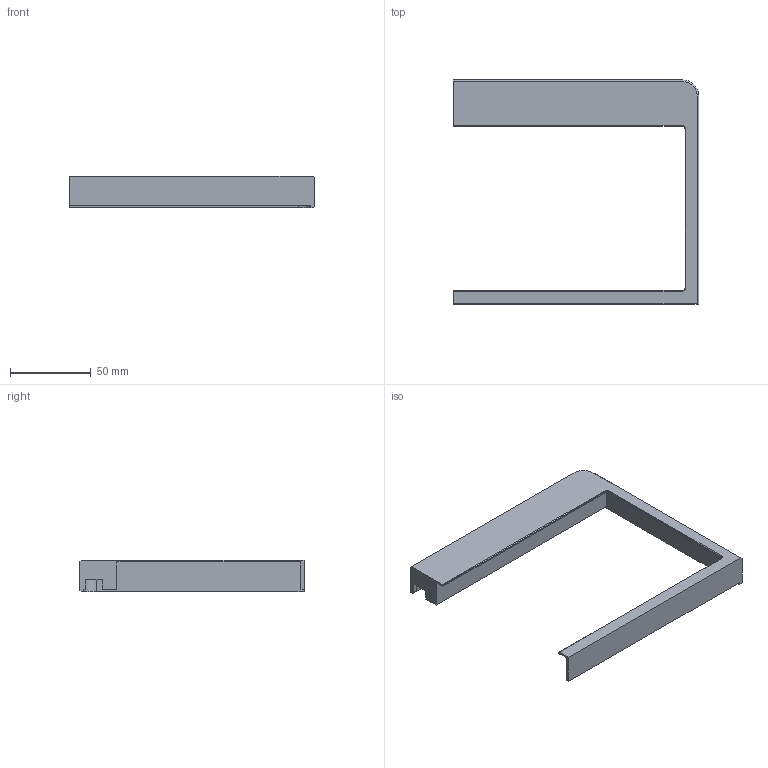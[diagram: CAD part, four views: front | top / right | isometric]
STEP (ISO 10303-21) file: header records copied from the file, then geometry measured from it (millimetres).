
FILE_DESCRIPTION(('Open CASCADE Model'),'2;1');
FILE_NAME('top_RR','2026-11-19T00:45:42',('Author'),('Open CASCADE'), 'Open CASCADE STEP processor 8.0','build123d','Unknown');
FILE_SCHEMA(('AUTOMOTIVE_DESIGN { 1 0 10303 214 1 1 1 1 }'));
Length unit declared in the file: millimetre
Products named in the file (1): top_RR
Bounding box: 151.68 x 138.44 x 19.75 mm (x, y, z)
Volume: 30360 mm3; surface area: 35941.6 mm2
Topology: 1 solids, 1 shells, 51 faces, 130 edges, 84 vertices
Faces by surface type: plane 37, cylinder 10, cone 4
Full cylindrical faces by diameter (mm): 4.2 x3
Entity records: 3156 total; most frequent: CARTESIAN_POINT 677, DIRECTION 407, ORIENTED_EDGE 260, PCURVE 260, DEFINITIONAL_REPRESENTATION 260, LINE 243, VECTOR 243, EDGE_CURVE 130
